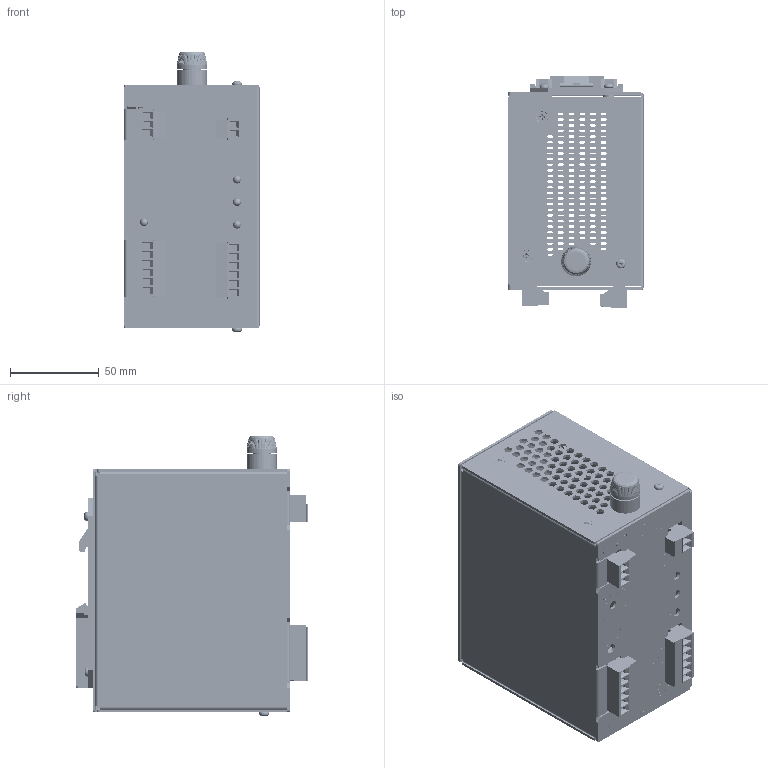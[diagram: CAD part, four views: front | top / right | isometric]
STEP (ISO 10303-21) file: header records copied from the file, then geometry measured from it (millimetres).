
FILE_DESCRIPTION(('HOOPS Exchange Step'),'2;1');
FILE_NAME('/Users/eric/Library/Containers/com.shapr3d.shapr/Data/tmp/export/temp_export','2026-06-26T11:28:13-07:00',('eric'),('Shapr3D Limited'),'HOOPS Exchange 2026.3','Shapr3D','Authorized');
FILE_SCHEMA( ('AP203_CONFIGURATION_CONTROLLED_3D_DESIGN_OF_MECHANICAL_PARTS_AND_ASSEMBLIES_MIM_LF') );
Length unit declared in the file: millimetre
Products named in the file (330): Gasket:1; Body:1; Cap:1; Rear Body:1; Solder Ring:1; Solder Lug:1; Nut:1; Fuse Holder; GND; Part 26; Part 226; Part 41; Part 232; Part 262; Part 259; Part 299; Part 212; Part 42; Part 159; Part 204; Part 107; Part 273; Part 292; Part 307; Part 190; Part 222; Part 161; Part 46; Part 194; Part 93; Part 236; Part 244; Part 168; Part 120; Part 263; Part 40; Part 73; Part 220; Part 101; Part 278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
Assembly tree (329 placements, depth 4):
  root
    PSC-D-75-24-1
      Fuse Holder
        Gasket:1
        Body:1
        Cap:1
        Rear Body:1
        Solder Ring:1
        Solder Lug:1
        Nut:1
      S-010 Label
        GND
        Part 26
        Part 226
        Part 41
        Part 232
        Part 262
        Part 259
        Part 299
        Part 212
        Part 42
        Part 159
        Part 204
        Part 107
        Part 273
        Part 292
        Part 307
        Part 190
        Part 222
        Part 161
        Part 46
        Part 194
        Part 93
        Part 236
        Part 244
        Part 168
        Part 120
        Part 263
        Part 40
        Part 73
        Part 220
        Part 101
        Part 278
        Part 163
        Part 305
        Part 291
        Part 67
        Part 255
        Part 63
        Part 265
        Part 225
        Part 177
        Part 173
        Part 246
        Part 17
        Part 280
        Part 230
        Part 99
        Part 32
        Part 175
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Bounding box: 76.2 x 130.89 x 157.75 mm (x, y, z)
Volume: 101582.5 mm3; surface area: 239180.5 mm2
Topology: 383 solids, 385 shells, 7685 faces, 20743 edges, 13814 vertices
Faces by surface type: plane 5409, bspline 918, cone 673, cylinder 645, torus 36, sphere 4
Full cylindrical faces by diameter (mm): 0.635 x34, 0.845 x6, 1.892 x1, 1.905 x33, 2.54 x14, 2.561 x2, 2.794 x10, 3.175 x32, 3.81 x12, 4.445 x18, 4.704 x2, 4.705 x2, 4.742 x3, 4.744 x3, 5.08 x4, 5.334 x6, 5.715 x1, 5.839 x2, 6.35 x27, 9.724 x7, 10.209 x1, 12.241 x1, 16.891 x2
Entity records: 295943 total; most frequent: CARTESIAN_POINT 99823, ORIENTED_EDGE 41064, DIRECTION 35244, EDGE_CURVE 20542, VECTOR 15350, LINE 15350, VERTEX_POINT 13816, AXIS2_PLACEMENT_3D 9947
